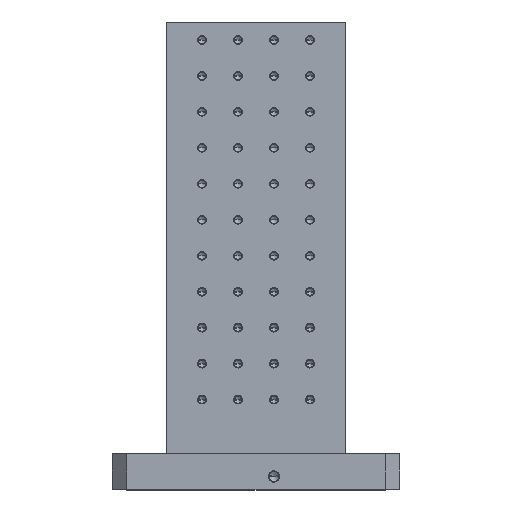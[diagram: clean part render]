
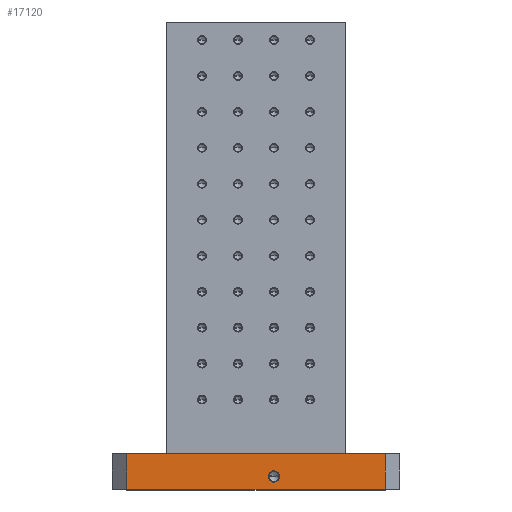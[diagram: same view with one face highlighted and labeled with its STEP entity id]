
A CAD part, top view. The second image highlights one B-rep face of the part: STEP entity #17120.
In plain terms, the highlighted planar face has unit normal (0, 0, 1).
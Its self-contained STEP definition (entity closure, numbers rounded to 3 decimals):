
#5=DIRECTION('',(1.,0.,0.));
#6=VECTOR('',#5,360.);
#7=CARTESIAN_POINT('',(-180.,-25.,200.));
#8=LINE('',#7,#6);
#221=DIRECTION('',(0.,-1.,0.));
#222=VECTOR('',#221,50.);
#223=CARTESIAN_POINT('',(-180.,25.,200.));
#224=LINE('',#223,#222);
#225=DIRECTION('',(0.,-1.,0.));
#226=VECTOR('',#225,50.);
#227=CARTESIAN_POINT('',(180.,25.,200.));
#228=LINE('',#227,#226);
#229=CARTESIAN_POINT('',(25.,-7.,200.));
#230=DIRECTION('',(0.,0.,1.));
#231=DIRECTION('',(-1.,0.,0.));
#232=AXIS2_PLACEMENT_3D('',#229,#230,#231);
#234=CARTESIAN_POINT('',(25.,-7.,200.));
#235=DIRECTION('',(0.,0.,1.));
#236=DIRECTION('',(1.,0.,0.));
#237=AXIS2_PLACEMENT_3D('',#234,#235,#236);
#283=DIRECTION('',(1.,0.,0.));
#284=VECTOR('',#283,360.);
#285=CARTESIAN_POINT('',(-180.,25.,200.));
#286=LINE('',#285,#284);
#13129=CARTESIAN_POINT('',(-180.,-25.,200.));
#13131=VERTEX_POINT('',#13129);
#13135=CARTESIAN_POINT('',(-180.,25.,200.));
#13136=VERTEX_POINT('',#13135);
#13154=CARTESIAN_POINT('',(180.,-25.,200.));
#13156=VERTEX_POINT('',#13154);
#13157=CARTESIAN_POINT('',(180.,25.,200.));
#13158=VERTEX_POINT('',#13157);
#13227=CARTESIAN_POINT('',(18.,-7.,200.));
#13228=CARTESIAN_POINT('',(32.,-7.,200.));
#13229=VERTEX_POINT('',#13227);
#13230=VERTEX_POINT('',#13228);
#17102=CARTESIAN_POINT('',(-200.,-25.,200.));
#17103=DIRECTION('',(0.,0.,1.));
#17104=DIRECTION('',(1.,0.,0.));
#17105=AXIS2_PLACEMENT_3D('',#17102,#17103,#17104);
#17106=PLANE('',#17105);
#17107=ORIENTED_EDGE('',*,*,#17001,.F.);
#17109=ORIENTED_EDGE('',*,*,#17108,.T.);
#17110=ORIENTED_EDGE('',*,*,#17094,.T.);
#17111=ORIENTED_EDGE('',*,*,#16854,.F.);
#17112=EDGE_LOOP('',(#17107,#17109,#17110,#17111));
#17113=FACE_OUTER_BOUND('',#17112,.F.);
#17115=ORIENTED_EDGE('',*,*,#17114,.T.);
#17117=ORIENTED_EDGE('',*,*,#17116,.T.);
#17118=EDGE_LOOP('',(#17115,#17117));
#17119=FACE_BOUND('',#17118,.F.);
#17120=ADVANCED_FACE('',(#17113,#17119),#17106,.T.);
#233=CIRCLE('',#232,7.);
#238=CIRCLE('',#237,7.);
#16854=EDGE_CURVE('',#13131,#13156,#8,.T.);
#17001=EDGE_CURVE('',#13136,#13131,#224,.T.);
#17094=EDGE_CURVE('',#13158,#13156,#228,.T.);
#17108=EDGE_CURVE('',#13136,#13158,#286,.T.);
#17114=EDGE_CURVE('',#13229,#13230,#233,.T.);
#17116=EDGE_CURVE('',#13230,#13229,#238,.T.);
